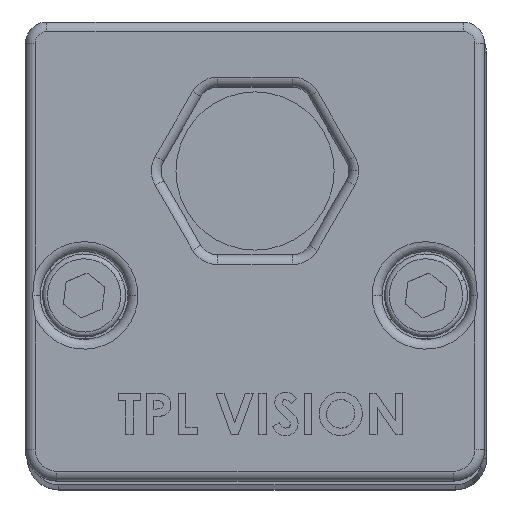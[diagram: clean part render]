
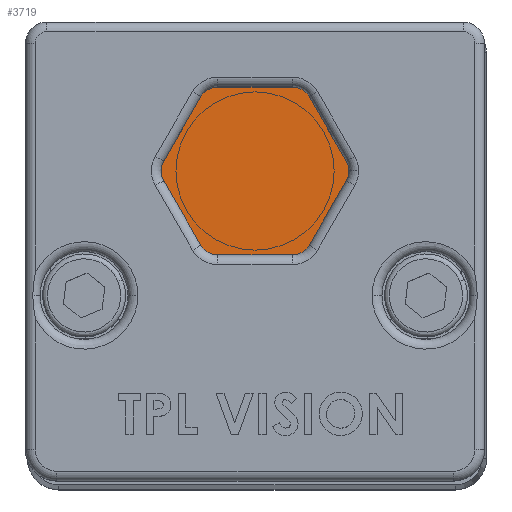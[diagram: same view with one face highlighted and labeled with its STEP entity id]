
A CAD part, top view. The second image highlights one B-rep face of the part: STEP entity #3719.
In plain terms, the highlighted planar face has unit normal (0, 0, 1).
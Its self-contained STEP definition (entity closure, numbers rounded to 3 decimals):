
#3470 = EDGE_CURVE ( 'NONE', #3472, #3474, #16003, .T. ) ;
#3472 = VERTEX_POINT ( 'NONE', #16110 ) ;
#3474 = VERTEX_POINT ( 'NONE', #16109 ) ;
#3476 = ORIENTED_EDGE ( 'NONE', *, *, #3598, .T. ) ;
#3598 = EDGE_CURVE ( 'NONE', #3474, #3600, #16649, .T. ) ;
#3600 = VERTEX_POINT ( 'NONE', #16640 ) ;
#3602 = ORIENTED_EDGE ( 'NONE', *, *, #3604, .T. ) ;
#3604 = EDGE_CURVE ( 'NONE', #3600, #3606, #16633, .T. ) ;
#3606 = VERTEX_POINT ( 'NONE', #16626 ) ;
#3608 = ORIENTED_EDGE ( 'NONE', *, *, #3966, .T. ) ;
#3610 = VERTEX_POINT ( 'NONE', #16625 ) ;
#3719 = ADVANCED_FACE ( 'NONE', ( #17199 ), #16983, .T. ) ;
#3720 = EDGE_LOOP ( 'NONE', ( #3721, #3476, #3602, #3608, #3968, #3976, #3980, #3987, #4179, #4040, #4015, #3950, #3956 ) ) ;
#3721 = ORIENTED_EDGE ( 'NONE', *, *, #3470, .T. ) ;
#3945 = EDGE_CURVE ( 'NONE', #7223, #3948, #17930, .T. ) ;
#3948 = VERTEX_POINT ( 'NONE', #17925 ) ;
#3950 = ORIENTED_EDGE ( 'NONE', *, *, #3952, .T. ) ;
#3952 = EDGE_CURVE ( 'NONE', #3948, #3954, #17921, .T. ) ;
#3954 = VERTEX_POINT ( 'NONE', #17915 ) ;
#3956 = ORIENTED_EDGE ( 'NONE', *, *, #3957, .T. ) ;
#3957 = EDGE_CURVE ( 'NONE', #3954, #3472, #17911, .T. ) ;
#3966 = EDGE_CURVE ( 'NONE', #3606, #3610, #17959, .T. ) ;
#3968 = ORIENTED_EDGE ( 'NONE', *, *, #3970, .T. ) ;
#3970 = EDGE_CURVE ( 'NONE', #3610, #3972, #17951, .T. ) ;
#3972 = VERTEX_POINT ( 'NONE', #17946 ) ;
#3974 = VERTEX_POINT ( 'NONE', #17945 ) ;
#3976 = ORIENTED_EDGE ( 'NONE', *, *, #3978, .T. ) ;
#3978 = EDGE_CURVE ( 'NONE', #3972, #3974, #18484, .T. ) ;
#3980 = ORIENTED_EDGE ( 'NONE', *, *, #3982, .T. ) ;
#3982 = EDGE_CURVE ( 'NONE', #3974, #3985, #18473, .T. ) ;
#3985 = VERTEX_POINT ( 'NONE', #18466 ) ;
#3987 = ORIENTED_EDGE ( 'NONE', *, *, #3989, .T. ) ;
#3989 = EDGE_CURVE ( 'NONE', #3985, #3991, #18462, .T. ) ;
#3991 = VERTEX_POINT ( 'NONE', #18455 ) ;
#4015 = ORIENTED_EDGE ( 'NONE', *, *, #3945, .T. ) ;
#4038 = EDGE_CURVE ( 'NONE', #3991, #7222, #18204, .T. ) ;
#4040 = ORIENTED_EDGE ( 'NONE', *, *, #7220, .T. ) ;
#4179 = ORIENTED_EDGE ( 'NONE', *, *, #4038, .T. ) ;
#7220 = EDGE_CURVE ( 'NONE', #7222, #7223, #26288, .T. ) ;
#7222 = VERTEX_POINT ( 'NONE', #26279 ) ;
#7223 = VERTEX_POINT ( 'NONE', #26278 ) ;
#16002 = CARTESIAN_POINT ( 'NONE',  ( -13.38, 21.1, 449.5 ) ) ;
#16003 = CIRCLE ( 'NONE', #16114, 2. ) ;
#16109 = CARTESIAN_POINT ( 'NONE',  ( -15.112, 22.1, 449.5 ) ) ;
#16110 = CARTESIAN_POINT ( 'NONE',  ( -13.38, 23.1, 449.5 ) ) ;
#16111 = DIRECTION ( 'NONE',  ( 1., 0., 0. ) ) ;
#16112 = DIRECTION ( 'NONE',  ( 0., 0., 1. ) ) ;
#16114 = AXIS2_PLACEMENT_3D ( 'NONE', #16002, #16112, #16111 ) ;
#16625 = CARTESIAN_POINT ( 'NONE',  ( -15.112, 6.9, 449.5 ) ) ;
#16626 = CARTESIAN_POINT ( 'NONE',  ( -18.923, 13.5, 449.5 ) ) ;
#16628 = DIRECTION ( 'NONE',  ( 1., 0., 0. ) ) ;
#16629 = DIRECTION ( 'NONE',  ( 0., 0., 1. ) ) ;
#16630 = CARTESIAN_POINT ( 'NONE',  ( -17.191, 14.5, 449.5 ) ) ;
#16631 = AXIS2_PLACEMENT_3D ( 'NONE', #16630, #16629, #16628 ) ;
#16633 = CIRCLE ( 'NONE', #16631, 2. ) ;
#16640 = CARTESIAN_POINT ( 'NONE',  ( -18.923, 15.5, 449.5 ) ) ;
#16643 = DIRECTION ( 'NONE',  ( -0.5, -0.866, 0. ) ) ;
#16645 = VECTOR ( 'NONE', #16643, 1000. ) ;
#16647 = CARTESIAN_POINT ( 'NONE',  ( -15.112, 22.1, 449.5 ) ) ;
#16649 = LINE ( 'NONE', #16647, #16645 ) ;
#16978 = DIRECTION ( 'NONE',  ( 1., 0., 0. ) ) ;
#16979 = DIRECTION ( 'NONE',  ( 0., 0., 1. ) ) ;
#16980 = CARTESIAN_POINT ( 'NONE',  ( -13.38, 21.1, 449.5 ) ) ;
#16981 = AXIS2_PLACEMENT_3D ( 'NONE', #16980, #16979, #16978 ) ;
#16983 = PLANE ( 'NONE',  #16981 ) ;
#17199 = FACE_OUTER_BOUND ( 'NONE', #3720, .T. ) ;
#17907 = DIRECTION ( 'NONE',  ( -1., 0., 0. ) ) ;
#17909 = VECTOR ( 'NONE', #17907, 1000. ) ;
#17910 = CARTESIAN_POINT ( 'NONE',  ( -5.759, 23.1, 449.5 ) ) ;
#17911 = LINE ( 'NONE', #17910, #17909 ) ;
#17915 = CARTESIAN_POINT ( 'NONE',  ( -5.759, 23.1, 449.5 ) ) ;
#17916 = DIRECTION ( 'NONE',  ( 1., 0., 0. ) ) ;
#17917 = DIRECTION ( 'NONE',  ( 0., 0., 1. ) ) ;
#17918 = CARTESIAN_POINT ( 'NONE',  ( -5.759, 21.1, 449.5 ) ) ;
#17919 = AXIS2_PLACEMENT_3D ( 'NONE', #17918, #17917, #17916 ) ;
#17921 = CIRCLE ( 'NONE', #17919, 2. ) ;
#17925 = CARTESIAN_POINT ( 'NONE',  ( -4.027, 22.1, 449.5 ) ) ;
#17926 = DIRECTION ( 'NONE',  ( -0.5, 0.866, 0. ) ) ;
#17928 = VECTOR ( 'NONE', #17926, 1000. ) ;
#17929 = CARTESIAN_POINT ( 'NONE',  ( -0.217, 15.5, 449.5 ) ) ;
#17930 = LINE ( 'NONE', #17929, #17928 ) ;
#17945 = CARTESIAN_POINT ( 'NONE',  ( -5.759, 5.9, 449.5 ) ) ;
#17946 = CARTESIAN_POINT ( 'NONE',  ( -13.38, 5.9, 449.5 ) ) ;
#17947 = DIRECTION ( 'NONE',  ( 1., 0., 0. ) ) ;
#17948 = DIRECTION ( 'NONE',  ( 0., 0., 1. ) ) ;
#17949 = CARTESIAN_POINT ( 'NONE',  ( -13.38, 7.9, 449.5 ) ) ;
#17950 = AXIS2_PLACEMENT_3D ( 'NONE', #17949, #17948, #17947 ) ;
#17951 = CIRCLE ( 'NONE', #17950, 2. ) ;
#17954 = DIRECTION ( 'NONE',  ( 0.5, -0.866, 0. ) ) ;
#17956 = VECTOR ( 'NONE', #17954, 1000. ) ;
#17958 = CARTESIAN_POINT ( 'NONE',  ( -18.923, 13.5, 449.5 ) ) ;
#17959 = LINE ( 'NONE', #17958, #17956 ) ;
#18204 = CIRCLE ( 'NONE', #18304, 2. ) ;
#18299 = DIRECTION ( 'NONE',  ( 1., 0., 0. ) ) ;
#18301 = DIRECTION ( 'NONE',  ( 0., 0., 1. ) ) ;
#18303 = CARTESIAN_POINT ( 'NONE',  ( -1.949, 14.5, 449.5 ) ) ;
#18304 = AXIS2_PLACEMENT_3D ( 'NONE', #18303, #18301, #18299 ) ;
#18455 = CARTESIAN_POINT ( 'NONE',  ( -0.217, 13.5, 449.5 ) ) ;
#18458 = DIRECTION ( 'NONE',  ( 0.5, 0.866, 0. ) ) ;
#18459 = VECTOR ( 'NONE', #18458, 1000. ) ;
#18460 = CARTESIAN_POINT ( 'NONE',  ( -4.027, 6.9, 449.5 ) ) ;
#18462 = LINE ( 'NONE', #18460, #18459 ) ;
#18466 = CARTESIAN_POINT ( 'NONE',  ( -4.027, 6.9, 449.5 ) ) ;
#18467 = DIRECTION ( 'NONE',  ( 1., 0., 0. ) ) ;
#18469 = DIRECTION ( 'NONE',  ( 0., 0., 1. ) ) ;
#18471 = CARTESIAN_POINT ( 'NONE',  ( -5.759, 7.9, 449.5 ) ) ;
#18472 = AXIS2_PLACEMENT_3D ( 'NONE', #18471, #18469, #18467 ) ;
#18473 = CIRCLE ( 'NONE', #18472, 2. ) ;
#18478 = DIRECTION ( 'NONE',  ( 1., 0., 0. ) ) ;
#18480 = VECTOR ( 'NONE', #18478, 1000. ) ;
#18482 = CARTESIAN_POINT ( 'NONE',  ( -13.38, 5.9, 449.5 ) ) ;
#18484 = LINE ( 'NONE', #18482, #18480 ) ;
#26278 = CARTESIAN_POINT ( 'NONE',  ( -0.217, 15.5, 449.5 ) ) ;
#26279 = CARTESIAN_POINT ( 'NONE',  ( 0.051, 14.5, 449.5 ) ) ;
#26280 = DIRECTION ( 'NONE',  ( 1., 0., 0. ) ) ;
#26281 = DIRECTION ( 'NONE',  ( 0., 0., 1. ) ) ;
#26282 = CARTESIAN_POINT ( 'NONE',  ( -1.949, 14.5, 449.5 ) ) ;
#26283 = AXIS2_PLACEMENT_3D ( 'NONE', #26282, #26281, #26280 ) ;
#26288 = CIRCLE ( 'NONE', #26283, 2. ) ;
